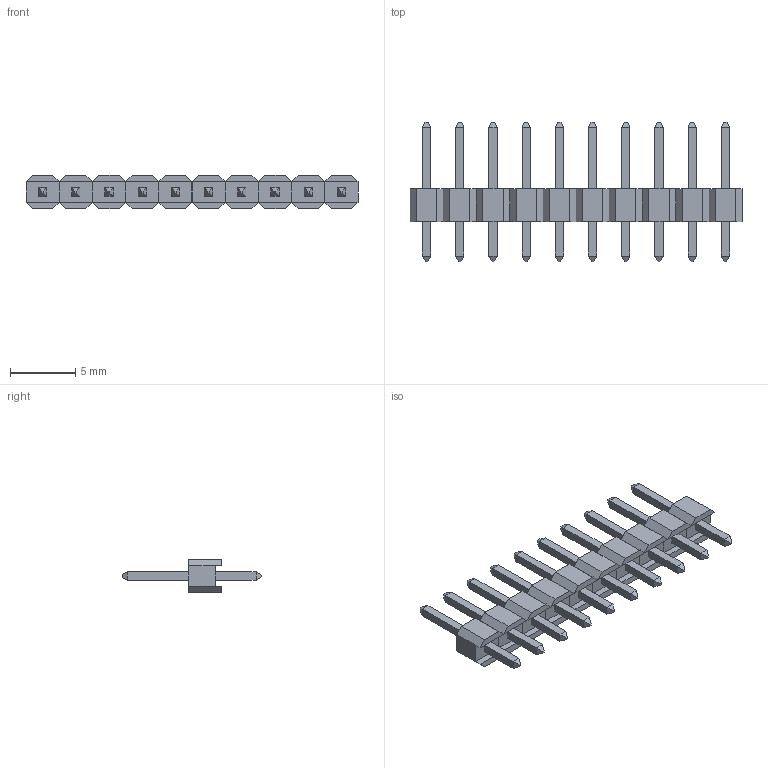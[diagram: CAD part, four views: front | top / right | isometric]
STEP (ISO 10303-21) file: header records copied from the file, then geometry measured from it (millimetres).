
FILE_DESCRIPTION (( 'STEP AP214' ), '1' );
FILE_NAME ('PRPC010SAAN-RC.STEP', '2018-01-16T15:45:43', ( '' ), ( '' ), 'SwSTEP 2.0', 'SolidWorks 2014', '' );
FILE_SCHEMA (( 'AUTOMOTIVE_DESIGN' ));
Length unit declared in the file: millimetre
Products named in the file (2): PRPC010SAAN-RC; 1 row end bumps format
Assembly tree (10 placements, depth 2):
  PRPC010SAAN-RC
    1 row end bumps format  x10
Bounding box: 25.4 x 10.67 x 2.54 mm (x, y, z)
Volume: 165.2 mm3; surface area: 581.8 mm2
Topology: 30 solids, 30 shells, 340 faces, 720 edges, 440 vertices
Faces by surface type: plane 340
Entity records: 1036 total; most frequent: DIRECTION 166, CARTESIAN_POINT 163, ORIENTED_EDGE 144, VECTOR 72, EDGE_CURVE 72, LINE 72, AXIS2_PLACEMENT_3D 47, VERTEX_POINT 44
